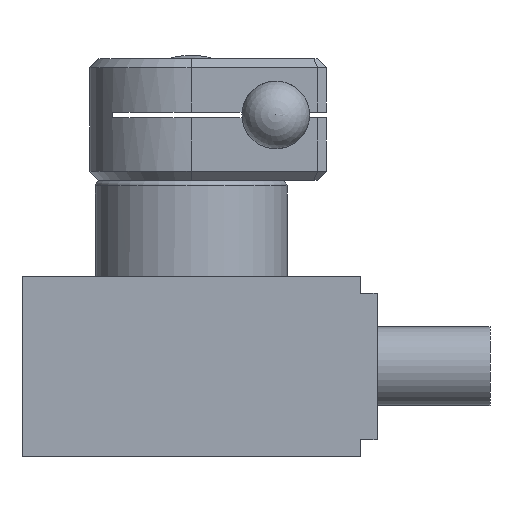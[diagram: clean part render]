
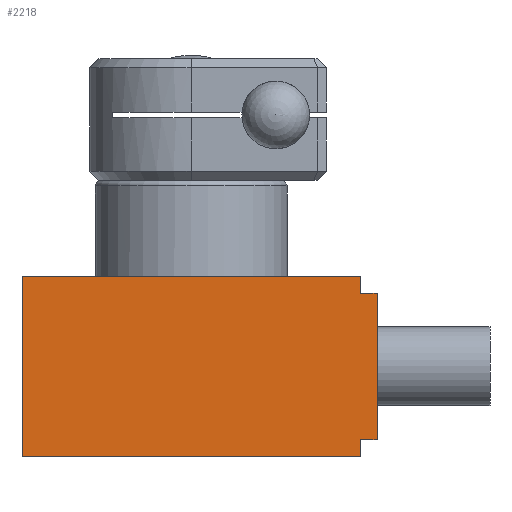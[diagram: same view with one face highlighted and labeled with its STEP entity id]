
A CAD part, front view. The second image highlights one B-rep face of the part: STEP entity #2218.
In plain terms, the highlighted planar face has unit normal (0, -1, 0) as drawn and (0, 0, -1) by its records, which use the part's own axes.
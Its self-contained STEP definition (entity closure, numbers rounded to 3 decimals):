
#155=LINE('',#3468,#369);
#159=LINE('',#3479,#373);
#167=LINE('',#3494,#381);
#199=LINE('',#3597,#413);
#215=LINE('',#3642,#429);
#231=LINE('',#3675,#445);
#234=LINE('',#3680,#448);
#235=LINE('',#3682,#449);
#369=VECTOR('',#2841,13.);
#373=VECTOR('',#2849,1.5);
#381=VECTOR('',#2857,1.5);
#413=VECTOR('',#2961,30.);
#429=VECTOR('',#3005,16.);
#445=VECTOR('',#3043,30.);
#448=VECTOR('',#3050,1.5);
#449=VECTOR('',#3053,1.5);
#529=PLANE('',#2427);
#721=FACE_OUTER_BOUND('',#871,.T.);
#871=EDGE_LOOP('',(#2023,#2024,#2025,#2026,#2027,#2028,#2029,#2030));
#1084=VERTEX_POINT('',#3465);
#1085=VERTEX_POINT('',#3467);
#1087=VERTEX_POINT('',#3472);
#1089=VERTEX_POINT('',#3476);
#1090=VERTEX_POINT('',#3478);
#1097=VERTEX_POINT('',#3492);
#1132=VERTEX_POINT('',#3595);
#1147=VERTEX_POINT('',#3640);
#1342=EDGE_CURVE('',#1085,#1084,#155,.T.);
#1347=EDGE_CURVE('',#1090,#1089,#159,.T.);
#1355=EDGE_CURVE('',#1087,#1097,#167,.T.);
#1404=EDGE_CURVE('',#1097,#1132,#199,.T.);
#1426=EDGE_CURVE('',#1147,#1132,#215,.T.);
#1443=EDGE_CURVE('',#1147,#1090,#231,.T.);
#1446=EDGE_CURVE('',#1089,#1085,#234,.T.);
#1447=EDGE_CURVE('',#1087,#1084,#235,.T.);
#2023=ORIENTED_EDGE('',*,*,#1342,.T.);
#2024=ORIENTED_EDGE('',*,*,#1447,.F.);
#2025=ORIENTED_EDGE('',*,*,#1355,.T.);
#2026=ORIENTED_EDGE('',*,*,#1404,.T.);
#2027=ORIENTED_EDGE('',*,*,#1426,.F.);
#2028=ORIENTED_EDGE('',*,*,#1443,.T.);
#2029=ORIENTED_EDGE('',*,*,#1347,.T.);
#2030=ORIENTED_EDGE('',*,*,#1446,.T.);
#2218=ADVANCED_FACE('',(#721),#529,.T.);
#2427=AXIS2_PLACEMENT_3D('',#3681,#3051,#3052);
#2841=DIRECTION('',(0.,-1.,0.));
#2849=DIRECTION('',(0.,-1.,0.));
#2857=DIRECTION('',(0.,-1.,0.));
#2961=DIRECTION('',(-1.,0.,0.));
#3005=DIRECTION('',(0.,-1.,0.));
#3043=DIRECTION('',(1.,0.,0.));
#3050=DIRECTION('',(1.,0.,0.));
#3051=DIRECTION('center_axis',(0.,0.,-1.));
#3052=DIRECTION('ref_axis',(-1.,0.,0.));
#3053=DIRECTION('',(1.,0.,0.));
#3465=CARTESIAN_POINT('',(16.5,-14.5,-40.));
#3467=CARTESIAN_POINT('',(16.5,-1.5,-40.));
#3468=CARTESIAN_POINT('',(16.5,-1.5,-40.));
#3472=CARTESIAN_POINT('',(15.,-14.5,-40.));
#3476=CARTESIAN_POINT('',(15.,-1.5,-40.));
#3478=CARTESIAN_POINT('',(15.,0.,-40.));
#3479=CARTESIAN_POINT('',(15.,0.,-40.));
#3492=CARTESIAN_POINT('',(15.,-16.,-40.));
#3494=CARTESIAN_POINT('',(15.,-14.5,-40.));
#3595=CARTESIAN_POINT('',(-15.,-16.,-40.));
#3597=CARTESIAN_POINT('',(15.,-16.,-40.));
#3640=CARTESIAN_POINT('',(-15.,0.,-40.));
#3642=CARTESIAN_POINT('',(-15.,0.,-40.));
#3675=CARTESIAN_POINT('',(-15.,0.,-40.));
#3680=CARTESIAN_POINT('',(15.,-1.5,-40.));
#3681=CARTESIAN_POINT('Origin',(15.,-1.5,-40.));
#3682=CARTESIAN_POINT('',(15.,-14.5,-40.));
